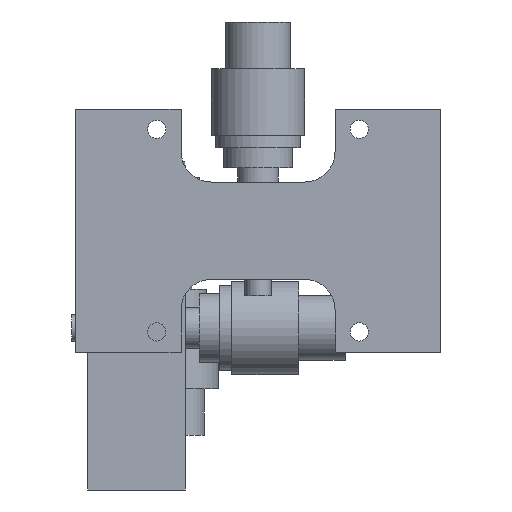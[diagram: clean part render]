
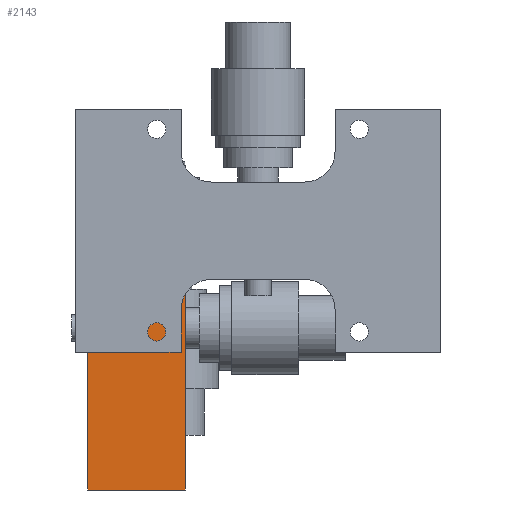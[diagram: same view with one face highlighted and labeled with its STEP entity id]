
A CAD part, front view. The second image highlights one B-rep face of the part: STEP entity #2143.
In plain terms, the highlighted planar face has unit normal (0, -1, 0).
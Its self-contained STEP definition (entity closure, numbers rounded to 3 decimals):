
#1957 = VERTEX_POINT ( 'NONE', #3730 ) ;
#1975 = EDGE_CURVE ( 'NONE', #2150, #1957, #3718, .T. ) ;
#2093 = EDGE_CURVE ( 'NONE', #2134, #2149, #3709, .T. ) ;
#2102 = EDGE_CURVE ( 'NONE', #1957, #2149, #4048, .T. ) ;
#2134 = VERTEX_POINT ( 'NONE', #3879 ) ;
#2143 = ADVANCED_FACE ( 'NONE', ( #3827 ), #3826, .F. ) ;
#2144 = EDGE_LOOP ( 'NONE', ( #2160, #2157, #2158, #2159 ) ) ;
#2149 = VERTEX_POINT ( 'NONE', #3817 ) ;
#2150 = VERTEX_POINT ( 'NONE', #3816 ) ;
#2156 = EDGE_CURVE ( 'NONE', #2150, #2134, #3842, .T. ) ;
#2157 = ORIENTED_EDGE ( 'NONE', *, *, #1975, .T. ) ;
#2158 = ORIENTED_EDGE ( 'NONE', *, *, #2102, .T. ) ;
#2159 = ORIENTED_EDGE ( 'NONE', *, *, #2093, .F. ) ;
#2160 = ORIENTED_EDGE ( 'NONE', *, *, #2156, .F. ) ;
#3695 = DIRECTION ( 'NONE',  ( 0., 0., -1. ) ) ;
#3696 = VECTOR ( 'NONE', #3695, 1000. ) ;
#3697 = CARTESIAN_POINT ( 'NONE',  ( -42., 33.5, 16. ) ) ;
#3706 = DIRECTION ( 'NONE',  ( 0., 0., -1. ) ) ;
#3707 = VECTOR ( 'NONE', #3706, 1000. ) ;
#3708 = CARTESIAN_POINT ( 'NONE',  ( -18., 33.5, 16. ) ) ;
#3709 = LINE ( 'NONE', #3708, #3707 ) ;
#3718 = LINE ( 'NONE', #3697, #3696 ) ;
#3730 = CARTESIAN_POINT ( 'NONE',  ( -42., 33.5, -64. ) ) ;
#3816 = CARTESIAN_POINT ( 'NONE',  ( -42., 33.5, -12. ) ) ;
#3817 = CARTESIAN_POINT ( 'NONE',  ( -18., 33.5, -64. ) ) ;
#3822 = DIRECTION ( 'NONE',  ( -1., 0., 0. ) ) ;
#3823 = DIRECTION ( 'NONE',  ( 0., 1., 0. ) ) ;
#3824 = CARTESIAN_POINT ( 'NONE',  ( -42., 33.5, 16. ) ) ;
#3825 = AXIS2_PLACEMENT_3D ( 'NONE', #3824, #3823, #3822 ) ;
#3826 = PLANE ( 'NONE',  #3825 ) ;
#3827 = FACE_OUTER_BOUND ( 'NONE', #2144, .T. ) ;
#3839 = DIRECTION ( 'NONE',  ( 1., 0., 0. ) ) ;
#3840 = VECTOR ( 'NONE', #3839, 1000. ) ;
#3841 = CARTESIAN_POINT ( 'NONE',  ( -45., 33.5, -12. ) ) ;
#3842 = LINE ( 'NONE', #3841, #3840 ) ;
#3879 = CARTESIAN_POINT ( 'NONE',  ( -18., 33.5, -12. ) ) ;
#4045 = DIRECTION ( 'NONE',  ( 1., 0., 0. ) ) ;
#4046 = VECTOR ( 'NONE', #4045, 1000. ) ;
#4047 = CARTESIAN_POINT ( 'NONE',  ( -42., 33.5, -64. ) ) ;
#4048 = LINE ( 'NONE', #4047, #4046 ) ;
